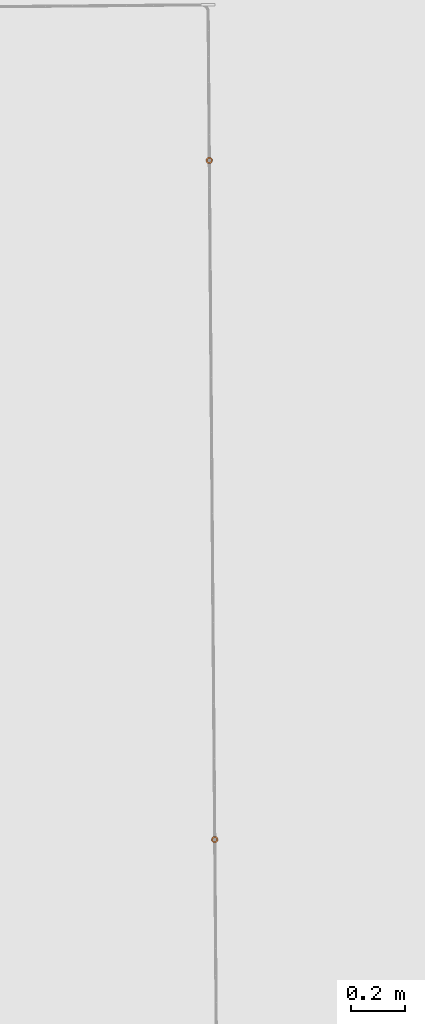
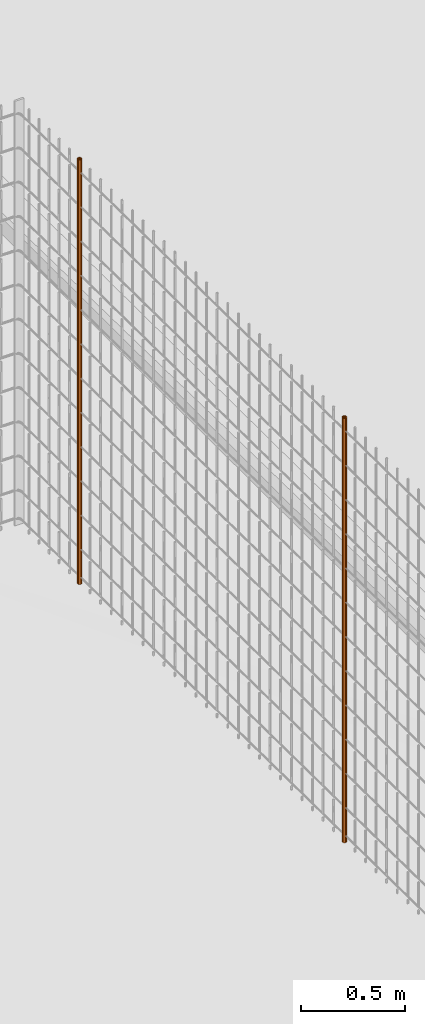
# One storey, part 21 of 1809: 2 proxies, 1 element without a shape of its own.
"""IFC2X3 building model written with IfcOpenShell, lengths in millimetres."""

from ifc_helpers import new_model, entity, si_unit, converted_unit, derived_unit, money_unit, direction, frame, origin_with_axes, place, context, subcontext, project, spatial, faceted_brep, source, transform, mapped, material, type_object, element, aggregate, save


model = new_model("IFC2X3")

# Units and contexts
model_context = context("Model", 3, precision=0.01, world=origin_with_axes(), true_north=direction((0.0, 1.0)))
body_context = subcontext(model_context, "Body", "Model", "MODEL_VIEW")
ifc_project = project(units=[si_unit("LENGTHUNIT", "METRE", prefix="MILLI"), si_unit("AREAUNIT", "SQUARE_METRE"), si_unit("VOLUMEUNIT", "CUBIC_METRE"), converted_unit("PLANEANGLEUNIT", "DEGREE", entity("IfcPlaneAngleMeasure", 0.0174532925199), si_unit("PLANEANGLEUNIT", "RADIAN"), dimensions=[0, 0, 0, 0, 0, 0, 0]), si_unit("SOLIDANGLEUNIT", "STERADIAN"), money_unit("EUR"), converted_unit("TIMEUNIT", "Year", entity("IfcTimeMeasure", 31556926.0), si_unit("TIMEUNIT", "SECOND"), dimensions=[0, 0, 1, 0, 0, 0, 0]), si_unit("MASSUNIT", "GRAM", prefix="KILO"), si_unit("THERMODYNAMICTEMPERATUREUNIT", "DEGREE_CELSIUS"), si_unit("LUMINOUSINTENSITYUNIT", "LUMEN"), si_unit("ENERGYUNIT", "JOULE", prefix="MEGA"), derived_unit("THERMALCONDUCTANCEUNIT", [(si_unit("POWERUNIT", "WATT"), 1), (si_unit("LENGTHUNIT", "METRE"), -1), (si_unit("THERMODYNAMICTEMPERATUREUNIT", "KELVIN"), -1)]), derived_unit("SPECIFICHEATCAPACITYUNIT", [(si_unit("ENERGYUNIT", "JOULE"), 1), (si_unit("MASSUNIT", "GRAM", prefix="KILO"), -1), (si_unit("THERMODYNAMICTEMPERATUREUNIT", "KELVIN"), -1)]), derived_unit("MASSDENSITYUNIT", [(si_unit("MASSUNIT", "GRAM", prefix="KILO"), 1), (si_unit("VOLUMEUNIT", "CUBIC_METRE"), -1)])], contexts=[model_context])

# Site, building, storey
site_placement = place(None, origin_with_axes())
site = spatial("IfcSite", under=ifc_project, at=site_placement, Name="Politse- ja Piirivalveameti ning Päästeameti ühishoone", CompositionType="ELEMENT")
building_placement = place(site_placement, origin_with_axes())
building = spatial("IfcBuilding", under=site, at=building_placement, Name="Politse- ja Piirivalveameti ning Päästeameti ühishoone", CompositionType="ELEMENT")
storey_placement = place(building_placement, origin_with_axes())
storey = spatial("IfcBuildingStorey", under=building, at=storey_placement, Name="Esimene korrus", CompositionType="ELEMENT", Elevation=0.0)

# Proxies
building_element_proxy_type_1 = type_object("IfcBuildingElementProxyType", Name="Railing Type", PredefinedType="NOTDEFINED")
proxy_1_placement = place(storey_placement, frame((-16775.8601056, 25156.7555964, 0.0), z_axis=(0.0, 0.0, 1.0), x_axis=(1.0, 0.0, 0.0)))
proxy_1 = element("IfcBuildingElementProxy", 1, at=proxy_1_placement, inside=storey, type_object=building_element_proxy_type_1, Name="KENNELI PIIRE")
ifc_material = material(Name="Teras - Konstruktsioon")
building_element_proxy_type_2 = type_object("IfcBuildingElementProxyType", Name="IfcBuildingElementProxy", PredefinedType="NOTDEFINED")
shared_shape = source(origin_with_axes(), body_context, "Body", "Brep", [
    faceted_brep([(0.0, -12.0, 0.0), (2.083778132, -11.8176930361, 0.0), (2.08377813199, -11.8176930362, 2480.0), (0.0, -12.0, 2480.0), (-2.083778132, -11.8176930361, 0.0), (-4.10424171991, -11.2763114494, 0.0), (-6.0, -10.3923048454, 0.0), (-7.71345131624, -9.19253331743, 0.0), (-9.19253331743, -7.71345131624, 0.0), (-10.3923048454, -6.0, 0.0), (-11.2763114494, -4.10424171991, 0.0), (-11.8176930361, -2.083778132, 0.0), (-12.0, 0.0, 0.0), (-11.8176930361, 2.083778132, 0.0), (-11.2763114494, 4.10424171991, 0.0), (-10.3923048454, 6.0, 0.0), (-9.19253331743, 7.71345131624, 0.0), (-7.71345131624, 9.19253331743, 0.0), (-6.0, 10.3923048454, 0.0), (-4.10424171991, 11.2763114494, 0.0), (-2.083778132, 11.8176930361, 0.0), (0.0, 12.0, 0.0), (2.083778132, 11.8176930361, 0.0), (4.10424171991, 11.2763114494, 0.0), (6.0, 10.3923048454, 0.0), (7.71345131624, 9.19253331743, 0.0), (9.19253331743, 7.71345131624, 0.0), (10.3923048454, 6.0, 0.0), (11.2763114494, 4.10424171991, 0.0), (11.8176930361, 2.083778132, 0.0), (12.0, 0.0, 0.0), (11.8176930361, -2.083778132, 0.0), (11.2763114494, -4.10424171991, 0.0), (10.3923048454, -6.0, 0.0), (9.19253331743, -7.71345131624, 0.0), (7.71345131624, -9.19253331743, 0.0), (6.0, -10.3923048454, 0.0), (4.10424171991, -11.2763114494, 0.0), (0.0, -7.0, 0.0), (1.21553724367, -6.89365427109, 0.0), (2.39414100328, -6.5778483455, 0.0), (3.5, -6.06217782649, 0.0), (4.49951326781, -5.36231110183, 0.0), (5.36231110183, -4.49951326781, 0.0), (6.06217782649, -3.5, 0.0), (6.5778483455, -2.39414100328, 0.0), (6.89365427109, -1.21553724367, 0.0), (7.0, 0.0, 0.0), (6.89365427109, 1.21553724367, 0.0), (6.5778483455, 2.39414100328, 0.0), (6.06217782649, 3.5, 0.0), (5.36231110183, 4.49951326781, 0.0), (4.49951326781, 5.36231110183, 0.0), (3.5, 6.06217782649, 0.0), (2.39414100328, 6.5778483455, 0.0), (1.21553724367, 6.89365427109, 0.0), (0.0, 7.0, 0.0), (-1.21553724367, 6.89365427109, 0.0), (-2.39414100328, 6.5778483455, 0.0), (-3.5, 6.06217782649, 0.0), (-4.49951326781, 5.36231110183, 0.0), (-5.36231110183, 4.49951326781, 0.0), (-6.06217782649, 3.5, 0.0), (-6.5778483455, 2.39414100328, 0.0), (-6.89365427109, 1.21553724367, 0.0), (-7.0, 0.0, 0.0), (-6.89365427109, -1.21553724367, 0.0), (-6.5778483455, -2.39414100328, 0.0), (-6.06217782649, -3.5, 0.0), (-5.36231110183, -4.49951326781, 0.0), (-4.49951326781, -5.36231110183, 0.0), (-3.5, -6.06217782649, 0.0), (-2.39414100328, -6.5778483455, 0.0), (-1.21553724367, -6.89365427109, 0.0), (4.1042417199, -11.2763114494, 2480.0), (5.99999999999, -10.3923048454, 2480.0), (7.71345131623, -9.19253331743, 2480.0), (9.19253331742, -7.71345131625, 2480.0), (10.3923048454, -6.00000000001, 2480.0), (11.2763114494, -4.10424171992, 2480.0), (11.8176930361, -2.08377813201, 2480.0), (12.0, 0.0, 2480.0), (11.8176930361, 2.083778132, 2480.0), (11.2763114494, 4.1042417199, 2480.0), (10.3923048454, 5.99999999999, 2480.0), (9.19253331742, 7.71345131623, 2480.0), (7.71345131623, 9.19253331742, 2480.0), (5.99999999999, 10.3923048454, 2480.0), (4.1042417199, 11.2763114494, 2480.0), (2.08377813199, 11.8176930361, 2480.0), (0.0, 12.0, 2480.0), (-2.08377813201, 11.8176930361, 2480.0), (-4.10424171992, 11.2763114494, 2480.0), (-6.00000000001, 10.3923048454, 2480.0), (-7.71345131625, 9.19253331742, 2480.0), (-9.19253331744, 7.71345131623, 2480.0), (-10.3923048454, 5.99999999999, 2480.0), (-11.2763114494, 4.1042417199, 2480.0), (-11.8176930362, 2.083778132, 2480.0), (-12.0, 0.0, 2480.0), (-11.8176930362, -2.08377813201, 2480.0), (-11.2763114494, -4.10424171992, 2480.0), (-10.3923048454, -6.00000000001, 2480.0), (-9.19253331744, -7.71345131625, 2480.0), (-7.71345131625, -9.19253331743, 2480.0), (-6.00000000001, -10.3923048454, 2480.0), (-4.10424171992, -11.2763114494, 2480.0), (-2.08377813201, -11.8176930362, 2480.0), (0.0, -7.00000000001, 2480.0), (-1.21553724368, -6.89365427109, 2480.0), (-2.39414100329, -6.57784834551, 2480.0), (-3.50000000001, -6.0621778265, 2480.0), (-4.49951326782, -5.36231110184, 2480.0), (-5.36231110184, -4.49951326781, 2480.0), (-6.0621778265, -3.50000000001, 2480.0), (-6.57784834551, -2.39414100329, 2480.0), (-6.8936542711, -1.21553724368, 2480.0), (-7.00000000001, 0.0, 2480.0), (-6.8936542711, 1.21553724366, 2480.0), (-6.57784834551, 2.39414100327, 2480.0), (-6.0621778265, 3.49999999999, 2480.0), (-5.36231110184, 4.4995132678, 2480.0), (-4.49951326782, 5.36231110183, 2480.0), (-3.50000000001, 6.06217782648, 2480.0), (-2.39414100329, 6.57784834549, 2480.0), (-1.21553724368, 6.89365427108, 2480.0), (0.0, 6.99999999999, 2480.0), (1.21553724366, 6.89365427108, 2480.0), (2.39414100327, 6.57784834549, 2480.0), (3.49999999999, 6.06217782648, 2480.0), (4.49951326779, 5.36231110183, 2480.0), (5.36231110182, 4.4995132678, 2480.0), (6.06217782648, 3.49999999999, 2480.0), (6.57784834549, 2.39414100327, 2480.0), (6.89365427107, 1.21553724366, 2480.0), (6.99999999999, 0.0, 2480.0), (6.89365427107, -1.21553724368, 2480.0), (6.57784834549, -2.39414100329, 2480.0), (6.06217782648, -3.50000000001, 2480.0), (5.36231110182, -4.49951326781, 2480.0), (4.49951326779, -5.36231110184, 2480.0), (3.49999999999, -6.0621778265, 2480.0), (2.39414100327, -6.57784834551, 2480.0), (1.21553724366, -6.89365427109, 2480.0)], [[[0, 1, 2, 3]], [[0, 4, 5, 6, 7, 8, 9, 10, 11, 12, 13, 14, 15, 16, 17, 18, 19, 20, 21, 22, 23, 24, 25, 26, 27, 28, 29, 30, 31, 32, 33, 34, 35, 36, 37, 1], [38, 39, 40, 41, 42, 43, 44, 45, 46, 47, 48, 49, 50, 51, 52, 53, 54, 55, 56, 57, 58, 59, 60, 61, 62, 63, 64, 65, 66, 67, 68, 69, 70, 71, 72, 73]], [[1, 37, 74, 2]], [[3, 2, 74, 75, 76, 77, 78, 79, 80, 81, 82, 83, 84, 85, 86, 87, 88, 89, 90, 91, 92, 93, 94, 95, 96, 97, 98, 99, 100, 101, 102, 103, 104, 105, 106, 107], [108, 109, 110, 111, 112, 113, 114, 115, 116, 117, 118, 119, 120, 121, 122, 123, 124, 125, 126, 127, 128, 129, 130, 131, 132, 133, 134, 135, 136, 137, 138, 139, 140, 141, 142, 143]], [[4, 0, 3, 107]], [[5, 4, 107, 106]], [[6, 5, 106, 105]], [[7, 6, 105, 104]], [[8, 7, 104, 103]], [[9, 8, 103, 102]], [[10, 9, 102, 101]], [[11, 10, 101, 100]], [[12, 11, 100, 99]], [[13, 12, 99, 98]], [[14, 13, 98, 97]], [[15, 14, 97, 96]], [[16, 15, 96, 95]], [[17, 16, 95, 94]], [[18, 17, 94, 93]], [[19, 18, 93, 92]], [[20, 19, 92, 91]], [[21, 20, 91, 90]], [[22, 21, 90, 89]], [[23, 22, 89, 88]], [[24, 23, 88, 87]], [[25, 24, 87, 86]], [[26, 25, 86, 85]], [[27, 26, 85, 84]], [[28, 27, 84, 83]], [[29, 28, 83, 82]], [[30, 29, 82, 81]], [[31, 30, 81, 80]], [[32, 31, 80, 79]], [[33, 32, 79, 78]], [[34, 33, 78, 77]], [[35, 34, 77, 76]], [[36, 35, 76, 75]], [[37, 36, 75, 74]], [[39, 38, 108, 143]], [[40, 39, 143, 142]], [[41, 40, 142, 141]], [[42, 41, 141, 140]], [[43, 42, 140, 139]], [[44, 43, 139, 138]], [[45, 44, 138, 137]], [[46, 45, 137, 136]], [[47, 46, 136, 135]], [[48, 47, 135, 134]], [[49, 48, 134, 133]], [[50, 49, 133, 132]], [[51, 50, 132, 131]], [[52, 51, 131, 130]], [[53, 52, 130, 129]], [[54, 53, 129, 128]], [[55, 54, 128, 127]], [[56, 55, 127, 126]], [[57, 56, 126, 125]], [[58, 57, 125, 124]], [[59, 58, 124, 123]], [[60, 59, 123, 122]], [[61, 60, 122, 121]], [[62, 61, 121, 120]], [[63, 62, 120, 119]], [[64, 63, 119, 118]], [[65, 64, 118, 117]], [[66, 65, 117, 116]], [[67, 66, 116, 115]], [[68, 67, 115, 114]], [[69, 68, 114, 113]], [[70, 69, 113, 112]], [[71, 70, 112, 111]], [[72, 71, 111, 110]], [[73, 72, 110, 109]], [[38, 73, 109, 108]]]),
])
proxy_2_placement = place(proxy_1_placement, frame((49.3852541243, -3047.53055349, 0.0), z_axis=(0.0, 0.0, 1.0), x_axis=(1.0, 0.0, 0.0)))
proxy_2 = element("IfcBuildingElementProxy", 2, at=proxy_2_placement, type_object=building_element_proxy_type_2, material=ifc_material, Name="SISEPOST - 001", context=body_context, shape_type="MappedRepresentation", body=[
    mapped(shared_shape, transform((0.0, 0.0, 0.0), x_axis=(0.999967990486, 0.00800112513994, 0.0), y_axis=(-0.00800112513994, 0.999967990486, 0.0), z_axis=(0.0, 0.0, 1.0))),
])
proxy_3_placement = place(proxy_1_placement, frame((29.3824412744, -547.610577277, 0.0), z_axis=(0.0, 0.0, 1.0), x_axis=(1.0, 0.0, 0.0)))
proxy_3 = element("IfcBuildingElementProxy", 3, at=proxy_3_placement, type_object=building_element_proxy_type_2, material=ifc_material, Name="SISEPOST - 001", context=body_context, shape_type="MappedRepresentation", body=[
    mapped(shared_shape, transform((0.0, 0.0, 0.0), x_axis=(0.999967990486, 0.00800112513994, 0.0), y_axis=(-0.00800112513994, 0.999967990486, 0.0), z_axis=(0.0, 0.0, 1.0))),
])
aggregate(proxy_1, [proxy_2, proxy_3])

save(model, "model.ifc")
